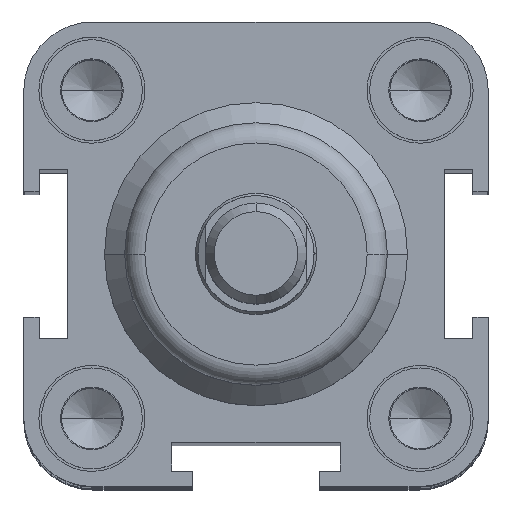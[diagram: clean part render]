
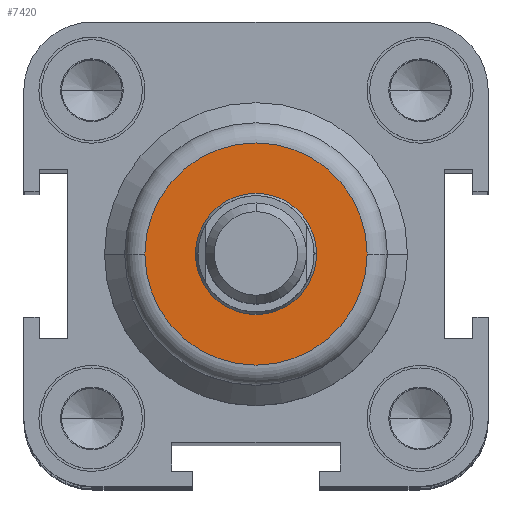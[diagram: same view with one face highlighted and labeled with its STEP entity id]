
A CAD part, top view. The second image highlights one B-rep face of the part: STEP entity #7420.
In plain terms, the highlighted planar face has unit normal (0, 0, 1).
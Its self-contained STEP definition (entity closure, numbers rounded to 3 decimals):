
#1472=CARTESIAN_POINT('',(-11.,0.0,113.0));
#1473=VERTEX_POINT('',#1472);
#1481=CARTESIAN_POINT('',(11.,0.,113.0));
#1482=VERTEX_POINT('',#1481);
#1483=CARTESIAN_POINT('',(0.0,0.0,113.0));
#1484=DIRECTION('',(0.0,0.0,-1.0));
#1485=DIRECTION('',(-1.0,0.0,0.0));
#1486=AXIS2_PLACEMENT_3D('',#1483,#1484,#1485);
#1487=CIRCLE('',#1486,11.);
#1488=EDGE_CURVE('',#1473,#1482,#1487,.T.);
#1593=CARTESIAN_POINT('',(6.,0.0,113.0));
#1594=VERTEX_POINT('',#1593);
#1610=CARTESIAN_POINT('',(-6.,0.,113.0));
#1611=VERTEX_POINT('',#1610);
#1618=CARTESIAN_POINT('',(0.0,0.0,113.0));
#1619=DIRECTION('',(0.0,0.0,-1.0));
#1620=DIRECTION('',(1.0,0.0,0.0));
#1621=AXIS2_PLACEMENT_3D('',#1618,#1619,#1620);
#1622=CIRCLE('',#1621,6.);
#1623=EDGE_CURVE('',#1594,#1611,#1622,.T.);
#7347=CARTESIAN_POINT('',(0.0,0.0,113.0));
#7348=DIRECTION('',(0.0,0.0,-1.0));
#7349=DIRECTION('',(1.0,0.0,0.0));
#7350=AXIS2_PLACEMENT_3D('',#7347,#7348,#7349);
#7351=CIRCLE('',#7350,6.);
#7352=EDGE_CURVE('',#1611,#1594,#7351,.T.);
#7401=CARTESIAN_POINT('',(-5.5,0.0,113.0));
#7402=DIRECTION('',(0.0,0.0,1.0));
#7403=DIRECTION('',(1.0,0.0,0.0));
#7404=AXIS2_PLACEMENT_3D('',#7401,#7402,#7403);
#7405=PLANE('',#7404);
#7406=ORIENTED_EDGE('',*,*,#1488,.F.);
#7407=CARTESIAN_POINT('',(0.0,0.0,113.0));
#7408=DIRECTION('',(0.0,0.0,-1.0));
#7409=DIRECTION('',(-1.0,0.0,0.0));
#7410=AXIS2_PLACEMENT_3D('',#7407,#7408,#7409);
#7411=CIRCLE('',#7410,11.);
#7412=EDGE_CURVE('',#1482,#1473,#7411,.T.);
#7413=ORIENTED_EDGE('',*,*,#7412,.F.);
#7414=EDGE_LOOP('',(#7406,#7413));
#7415=FACE_OUTER_BOUND('',#7414,.T.);
#7416=ORIENTED_EDGE('',*,*,#1623,.T.);
#7417=ORIENTED_EDGE('',*,*,#7352,.T.);
#7418=EDGE_LOOP('',(#7416,#7417));
#7419=FACE_BOUND('',#7418,.T.);
#7420=ADVANCED_FACE('',(#7415,#7419),#7405,.T.);
